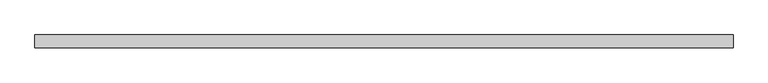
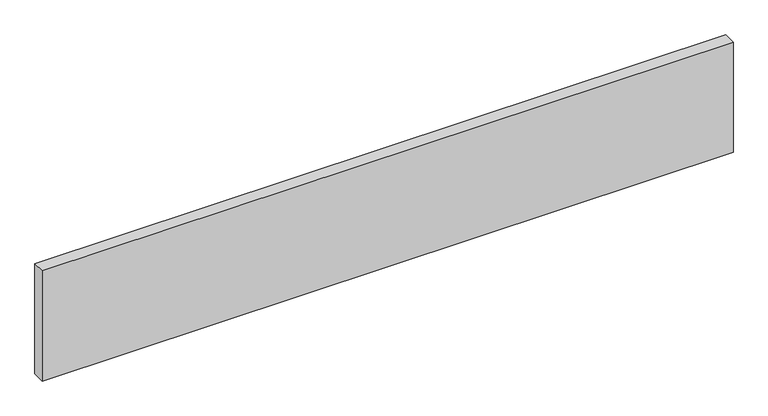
"""IFC4 building model written with IfcOpenShell, lengths in millimetres: plate geometry, Lod 200 Regolare 800 Horizontal : Azuro."""

import ifcopenshell
import ifcopenshell.guid

model = None  # the IFC model being written
_history = None  # IfcOwnerHistory: only IFC2X3 demands one
_inside = {}  # id of a spatial element -> (the spatial element, [elements in it])
_under = {}  # id of a project, library or spatial element -> (it, [spatial elements below it])
_declared = {}  # id of a project -> (the project, [libraries it declares])
_typed = {}  # id of a type object -> (the type object, [elements of that type])
_made_of = {}  # id of a material, layer set ... -> (it, [elements and type objects made of it])


def new_model(schema):
    """Start an empty IFC model of exactly this schema.

    Asked for "IFC4X3", IfcOpenShell would pick the latest addendum, in which some entities
    have other attributes; the version numbers below select the first issue.
    IFC2X3 requires an IfcOwnerHistory on every rooted entity: one is made here for all.
    """
    global model, _history
    if schema == "IFC4X3":
        model = ifcopenshell.file(schema_version=(4, 3, 0, 0))
    else:
        model = ifcopenshell.file(schema=schema)
    _inside.clear()
    _under.clear()
    _declared.clear()
    _typed.clear()
    _made_of.clear()
    _history = None
    if model.schema == "IFC2X3":
        org = make("IfcOrganization", Name="unknown")
        user = make(
            "IfcPersonAndOrganization",
            ThePerson=make("IfcPerson", FamilyName="unknown"),
            TheOrganization=org,
        )
        app = make(
            "IfcApplication",
            ApplicationDeveloper=org,
            Version="unknown",
            ApplicationFullName="unknown",
            ApplicationIdentifier="unknown",
        )
        _history = make(
            "IfcOwnerHistory",
            OwningUser=user,
            OwningApplication=app,
            ChangeAction="ADDED",
            CreationDate=0,
        )
    return model


def make(cls, **values):
    """One entity of the class cls with the attributes given. An attribute that is None is left unset."""
    return model.create_entity(
        cls, **{name: value for name, value in values.items() if value is not None}
    )


def rooted(cls, **values):
    """An entity with a GlobalId (a new one), such as an element, a storey or a relation."""
    return make(cls, GlobalId=ifcopenshell.guid.new(), OwnerHistory=_history, **values)


def si_unit(unit_type, name, prefix=None):
    """IfcSIUnit, for example si_unit("LENGTHUNIT", "METRE", prefix="MILLI")."""
    return make("IfcSIUnit", UnitType=unit_type, Prefix=prefix, Name=name)


def assignment(units):
    """IfcUnitAssignment: the units of a project."""
    return None if units is None else make("IfcUnitAssignment", Units=units)


def point(xyz):
    """IfcCartesianPoint."""
    return None if xyz is None else make("IfcCartesianPoint", Coordinates=xyz)


def direction(xyz):
    """IfcDirection."""
    return None if xyz is None else make("IfcDirection", DirectionRatios=xyz)


def frame(location, z_axis=None, x_axis=None):
    """IfcAxis2Placement3D, a coordinate frame: its origin and axes. An axis left out is left unset."""
    return make(
        "IfcAxis2Placement3D",
        Location=point(location),
        Axis=direction(z_axis),
        RefDirection=direction(x_axis),
    )


def origin():
    """The frame at (0, 0, 0) with its axes left unset."""
    return frame((0.0, 0.0, 0.0))


def origin_with_axes():
    """The frame at (0, 0, 0) with the z axis (0, 0, 1) and the x axis (1, 0, 0) written out."""
    return frame((0.0, 0.0, 0.0), z_axis=(0.0, 0.0, 1.0), x_axis=(1.0, 0.0, 0.0))


def place(relative_to, where):
    """IfcLocalPlacement: puts the frame where relative to a parent placement (None: the world)."""
    return make(
        "IfcLocalPlacement", PlacementRelTo=relative_to, RelativePlacement=where
    )


def context(
    kind, dimensions, precision=None, world=None, true_north=None, identifier=None
):
    """IfcGeometricRepresentationContext, for example the 3D "Model" context."""
    return make(
        "IfcGeometricRepresentationContext",
        ContextIdentifier=identifier,
        ContextType=kind,
        CoordinateSpaceDimension=dimensions,
        Precision=precision,
        WorldCoordinateSystem=world,
        TrueNorth=true_north,
    )


def project(units=None, contexts=None):
    """IfcProject with its units and contexts."""
    return rooted(
        "IfcProject",
        Name="project",
        RepresentationContexts=contexts,
        UnitsInContext=assignment(units),
    )


def spatial(cls, under=None, at=None, **own):
    """A site, building, storey or space (cls), placed at a placement, below another one or the project."""
    s = rooted(cls, ObjectPlacement=at, **own)
    if under is not None:
        _under.setdefault(under.id(), (under, []))[1].append(s)
    return s


def polyline(points):
    """IfcPolyline through the points."""
    return make("IfcPolyline", Points=[point(p) for p in points])


def outline(outer, holes=None, kind="AREA"):
    """IfcArbitraryClosedProfileDef: a profile drawn as a closed curve; with holes, ...WithVoids."""
    if holes is None:
        return make("IfcArbitraryClosedProfileDef", ProfileType=kind, OuterCurve=outer)
    return make(
        "IfcArbitraryProfileDefWithVoids",
        ProfileType=kind,
        OuterCurve=outer,
        InnerCurves=holes,
    )


def extrude(swept, where, along, depth):
    """IfcExtrudedAreaSolid: the profile swept, set in the frame where, extruded along a direction by depth."""
    return make(
        "IfcExtrudedAreaSolid",
        SweptArea=swept,
        Position=where,
        ExtrudedDirection=direction(along),
        Depth=depth,
    )


def shape(context_of_items, identifier, shape_type, items):
    """IfcShapeRepresentation: the items that make up one representation, for example the "Body"."""
    return make(
        "IfcShapeRepresentation",
        ContextOfItems=context_of_items,
        RepresentationIdentifier=identifier,
        RepresentationType=shape_type,
        Items=items,
    )


def source(mapping_origin, context_of_items, identifier, shape_type, items):
    """IfcRepresentationMap: a shape defined once, which mapped items show again and again."""
    return make(
        "IfcRepresentationMap",
        MappingOrigin=mapping_origin,
        MappedRepresentation=shape(context_of_items, identifier, shape_type, items),
    )


def transform(
    local_origin,
    x_axis=None,
    y_axis=None,
    z_axis=None,
    scale=None,
    scale2=None,
    scale3=None,
    uniform=True,
):
    """IfcCartesianTransformationOperator3D, or its non-uniform kind. x_axis, y_axis, z_axis: its Axis1, 2, 3."""
    if uniform:
        return make(
            "IfcCartesianTransformationOperator3D",
            Axis1=direction(x_axis),
            Axis2=direction(y_axis),
            LocalOrigin=point(local_origin),
            Scale=scale,
            Axis3=direction(z_axis),
        )
    return make(
        "IfcCartesianTransformationOperator3DnonUniform",
        Axis1=direction(x_axis),
        Axis2=direction(y_axis),
        LocalOrigin=point(local_origin),
        Scale=scale,
        Axis3=direction(z_axis),
        Scale2=scale2,
        Scale3=scale3,
    )


def mapped(mapping_source, mapping_target):
    """IfcMappedItem: shows the shape of a source again, moved by a transform."""
    return make(
        "IfcMappedItem", MappingSource=mapping_source, MappingTarget=mapping_target
    )


def made_of(thing, what):
    """Note that an element or type object is made of a material, layer set ...; save() writes the relation."""
    if what is not None:
        _made_of.setdefault(what.id(), (what, []))[1].append(thing)
    return thing


def element(
    cls,
    number,
    at=None,
    inside=None,
    cuts=None,
    type_object=None,
    material=None,
    context=None,
    identifier="Body",
    shape_type=None,
    held_by="IfcProductDefinitionShape",
    body=None,
    shapes=None,
    **own,
):
    """One element of the class cls, such as IfcWall. Its Tag is "e" and its number.

    at: its placement. inside: the storey or other place that contains it. cuts: it is an
    opening in that element (IfcRelVoidsElement). A single representation is given by context,
    identifier, shape_type and body (its items); several are given by shapes. held_by: the class
    of the entity that holds the representations. save() writes the other relations.
    """
    e = rooted(cls, Tag="e%d" % number, ObjectPlacement=at, **own)
    if body is not None:
        shapes = [shape(context, identifier, shape_type, body)]
    if shapes is not None:
        e.Representation = make(held_by, Representations=shapes)
    if inside is not None:
        _inside.setdefault(inside.id(), (inside, []))[1].append(e)
    if cuts is not None:
        rooted(
            "IfcRelVoidsElement", RelatingBuildingElement=cuts, RelatedOpeningElement=e
        )
    if type_object is not None:
        _typed.setdefault(type_object.id(), (type_object, []))[1].append(e)
    return made_of(e, material)


def aggregate(whole, parts):
    """IfcRelAggregates: a whole, such as a stair, and the parts it consists of."""
    return rooted("IfcRelAggregates", RelatingObject=whole, RelatedObjects=parts)


def save(model, path):
    """Write the relations noted so far, then the file.

    IfcRelAggregates (storeys below a building ...), IfcRelContainedInSpatialStructure (elements
    in a storey), IfcRelDefinesByType, IfcRelAssociatesMaterial and IfcRelDeclares: one each for
    every whole, place, type object, material and project.
    """
    for whole, parts in _under.values():
        aggregate(whole, parts)
    for where, things in _inside.values():
        rooted(
            "IfcRelContainedInSpatialStructure",
            RelatedElements=things,
            RelatingStructure=where,
        )
    for kind, things in _typed.values():
        rooted("IfcRelDefinesByType", RelatedObjects=things, RelatingType=kind)
    for what, things in _made_of.values():
        rooted("IfcRelAssociatesMaterial", RelatedObjects=things, RelatingMaterial=what)
    for by, libraries in _declared.values():
        rooted("IfcRelDeclares", RelatingContext=by, RelatedDefinitions=libraries)
    model.write(path)


def plate_49844953(model_context):
    return source(origin(), model_context, "Body", "SweptSolid", [
        extrude(outline(polyline([(1097.5, -40.0), (-1097.5, -40.0), (-1097.5, 0.0), (1097.5, 0.0), (1097.5, -40.0)])), origin_with_axes(), (0.0, 0.0, 1.0), 370.0),
    ])


if __name__ == "__main__":
    model = new_model("IFC4")
    model_context = context("Model", 3, world=origin())
    ifc_project = project(units=[si_unit("LENGTHUNIT", "METRE", prefix="MILLI")], contexts=[model_context])
    site = spatial("IfcSite", under=ifc_project)
    building = spatial("IfcBuilding", under=site)
    placement = place(None, origin())
    plate_shape = plate_49844953(model_context)
    element("IfcPlate", 1, ObjectType="Lod 200 Regolare 800 Horizontal : Azuro", at=placement, inside=building, context=model_context, shape_type="MappedRepresentation", body=[
        mapped(plate_shape, transform((0.0, 0.0, 0.0), x_axis=(1.0, 0.0, 0.0), y_axis=(0.0, 1.0, 0.0), z_axis=(0.0, 0.0, 1.0))),
    ])
    save(model, "model.ifc")
